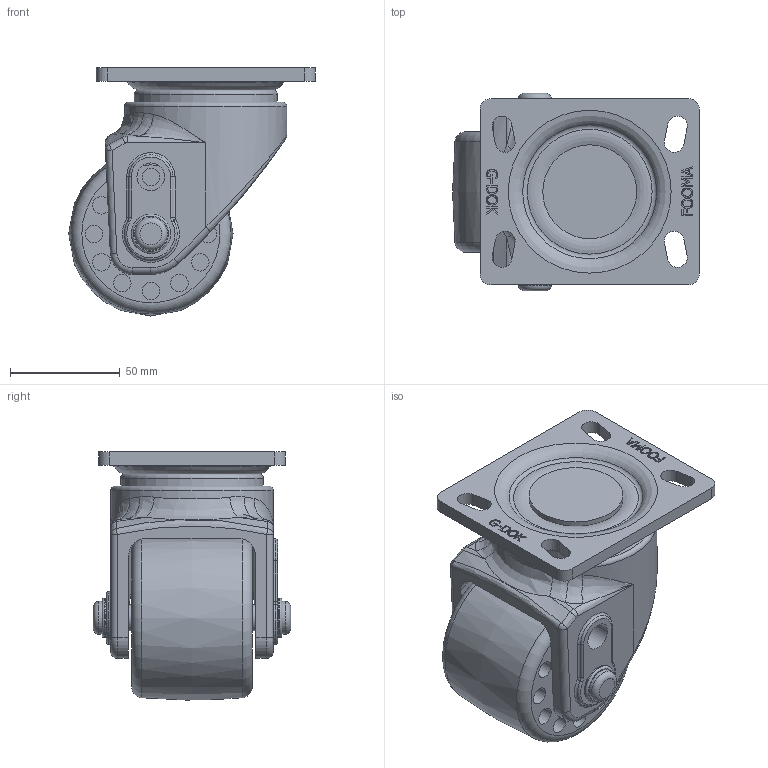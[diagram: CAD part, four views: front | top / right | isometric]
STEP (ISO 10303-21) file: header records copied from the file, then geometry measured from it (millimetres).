
FILE_DESCRIPTION(/* description */ (' '),/* implementation_level */ '2;1');
FILE_NAME(/* name */ 'E:\홈피용도면\홈페이지용3d\GLH-SERIES(PEU,PUS)\GLH-75-ASF-PEU.stp',/* time_stamp */ '2017-01-25T17:56:23+09:00',/* author */ ('Administrator'),/* organization */ (' '),/* preprocessor_version */ 'ST-DEVELOPER v16.5',/* originating_system */ 'Autodesk Inventor 2017',/* authorisation */ ' ');
FILE_SCHEMA (('AUTOMOTIVE_DESIGN { 1 0 10303 214 3 1 1 }'));
Length unit declared in the file: millimetre
Products named in the file (1): GLH-75-ASF-PEU
Bounding box: 112.5 x 90 x 113.12 mm (x, y, z)
Volume: 435086 mm3; surface area: 72035.7 mm2
Topology: 1 solids, 3 shells, 468 faces, 1151 edges, 737 vertices
Faces by surface type: plane 169, bspline 151, cylinder 69, torus 32, cone 25, sphere 22
Full cylindrical faces by diameter (mm): 6.912 x1, 7.8 x1, 8 x24, 11.95 x2, 12.2 x2, 12.676 x1, 15 x2, 18 x2, 42.8 x1, 65.14 x1, 74 x1
Entity records: 21841 total; most frequent: CARTESIAN_POINT 11673, ORIENTED_EDGE 2138, DIRECTION 1876, EDGE_CURVE 1069, AXIS2_PLACEMENT_3D 743, VERTEX_POINT 719, EDGE_LOOP 594, FACE_OUTER_BOUND 468
